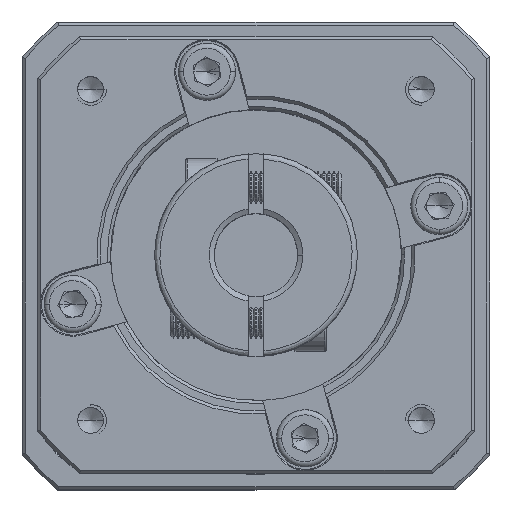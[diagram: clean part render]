
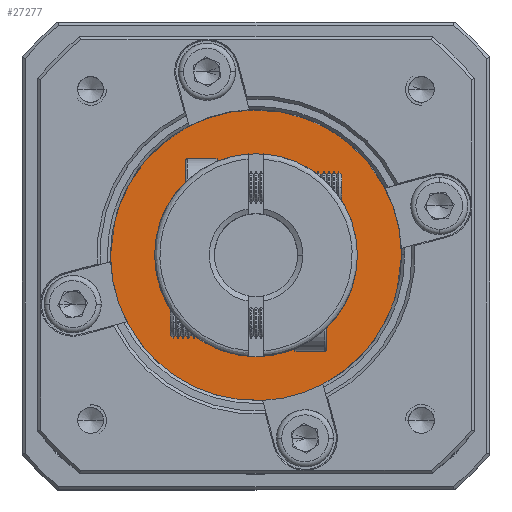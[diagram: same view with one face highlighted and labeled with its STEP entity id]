
A CAD part, top view. The second image highlights one B-rep face of the part: STEP entity #27277.
In plain terms, the highlighted planar face has unit normal (0, 0, 1).
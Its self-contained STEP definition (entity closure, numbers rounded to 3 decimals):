
#4266 = DIRECTION ( 'NONE',  ( 1., 0., 0. ) ) ;
#7475 = VERTEX_POINT ( 'NONE', #99300 ) ;
#15581 = ORIENTED_EDGE ( 'NONE', *, *, #109840, .F. ) ;
#19140 = CIRCLE ( 'NONE', #109701, 20.8 ) ;
#19908 = DIRECTION ( 'NONE',  ( 0., 0., -1. ) ) ;
#21497 = EDGE_CURVE ( 'NONE', #23016, #7475, #19140, .T. ) ;
#23016 = VERTEX_POINT ( 'NONE', #44327 ) ;
#24537 = DIRECTION ( 'NONE',  ( -1., 0., 0. ) ) ;
#25702 = DIRECTION ( 'NONE',  ( 0., 0., -1. ) ) ;
#27277 = ADVANCED_FACE ( 'NONE', ( #57202 ), #101711, .T. ) ;
#42940 = CARTESIAN_POINT ( 'NONE',  ( 3.853, 11.565, -28.104 ) ) ;
#44327 = CARTESIAN_POINT ( 'NONE',  ( 24.653, 11.565, -28.104 ) ) ;
#47663 = DIRECTION ( 'NONE',  ( 0., 0., 1. ) ) ;
#56917 = CARTESIAN_POINT ( 'NONE',  ( 3.853, 11.565, -28.104 ) ) ;
#57202 = FACE_OUTER_BOUND ( 'NONE', #91516, .T. ) ;
#64219 = ORIENTED_EDGE ( 'NONE', *, *, #21497, .F. ) ;
#64521 = DIRECTION ( 'NONE',  ( -1., 0., 0. ) ) ;
#67068 = AXIS2_PLACEMENT_3D ( 'NONE', #72978, #19908, #64521 ) ;
#69785 = CIRCLE ( 'NONE', #67068, 20.8 ) ;
#71507 = AXIS2_PLACEMENT_3D ( 'NONE', #56917, #47663, #4266 ) ;
#72978 = CARTESIAN_POINT ( 'NONE',  ( 3.853, 11.565, -28.104 ) ) ;
#91516 = EDGE_LOOP ( 'NONE', ( #15581, #64219 ) ) ;
#99300 = CARTESIAN_POINT ( 'NONE',  ( -16.947, 11.565, -28.104 ) ) ;
#101711 = PLANE ( 'NONE',  #71507 ) ;
#109701 = AXIS2_PLACEMENT_3D ( 'NONE', #42940, #25702, #24537 ) ;
#109840 = EDGE_CURVE ( 'NONE', #7475, #23016, #69785, .T. ) ;
